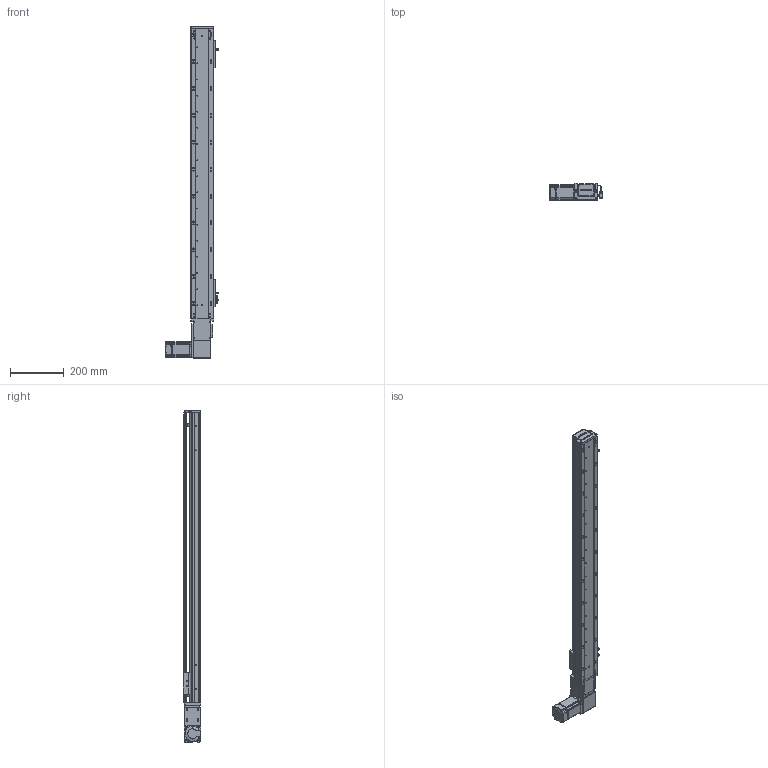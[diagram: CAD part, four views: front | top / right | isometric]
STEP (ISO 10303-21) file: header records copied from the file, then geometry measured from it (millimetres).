
FILE_DESCRIPTION (( 'STEP AP203' ), '1' );
FILE_NAME ('RY80-T-300-LK.SLDASM_900.step', '2021-03-01T01:58:47', ( '盈信电脑' ), ( '东莞市道滘镇水果街19号' ), 'SwSTEP 2.0', 'SolidWorks 2012', '' );
FILE_SCHEMA (( 'CONFIG_CONTROL_DESIGN' ));
Length unit declared in the file: millimetre
Products named in the file (19): RY80-T肮祭謫俋欶; RY80-T-M4蹟翐; RY80-T-300-LK.SLDASM_900; RY80-T萇儂假蚾啣; 侂狟200W萇儂; 1; 滅袉蝶18-10; RY80-T肮祭湍揤輸2; RY80-T翋肮祭謫裔啣; RY80-T粣創揤踡輸; RY80-T肮祭湍揤輸1; RY80-T-翋肮祭謫釱; RY80俋离覜茼え; RY80-T綴裔啣; 672嫖萇羲壽假蚾釱; 覜茼ん672; RY80-T-300-LK倰第菁釱_900; RY80-T-300-LK倰第奻裔啣_900; RY80-T肮祭謫臏賑輸
Assembly tree (24 placements, depth 3):
  RY80-T-300-LK.SLDASM_900
    RY80-T-300-LK倰第菁釱_900
    RY80-T肮祭謫臏賑輸
    RY80-T-300-LK倰第奻裔啣_900
    RY80-T綴裔啣
    672嫖萇羲壽假蚾釱  x2
    覜茼ん672  x3
    RY80俋离覜茼え
    RY80-T-翋肮祭謫釱
    RY80-T肮祭湍揤輸1
    RY80-T肮祭湍揤輸2
    RY80-T粣創揤踡輸
    RY80-T翋肮祭謫裔啣  x2
    滅袉蝶18-10  x2
    侂狟200W萇儂
      1
    RY80-T肮祭謫俋欶
    RY80-T萇儂假蚾啣
    RY80-T-M4蹟翐  x2
Bounding box: 198.7 x 65 x 1235 mm (x, y, z)
Volume: 2043739 mm3; surface area: 852453.5 mm2
Topology: 23 solids, 23 shells, 2601 faces, 7219 edges, 4693 vertices
Faces by surface type: plane 1351, cylinder 1042, cone 152, bspline 56
Entity records: 83427 total; most frequent: CARTESIAN_POINT 21289, ORIENTED_EDGE 12882, DIRECTION 11906, EDGE_CURVE 6441, VERTEX_POINT 4234, AXIS2_PLACEMENT_3D 4039, LINE 3828, VECTOR 3828
